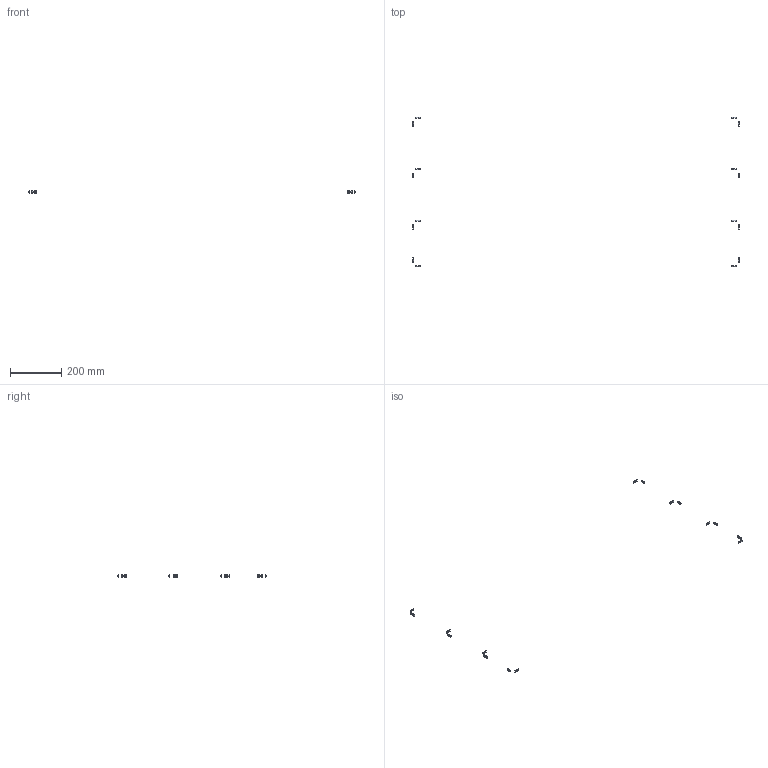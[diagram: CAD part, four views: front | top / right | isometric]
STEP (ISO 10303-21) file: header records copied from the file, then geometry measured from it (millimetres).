
FILE_DESCRIPTION(/* description */ (''),/* implementation_level */ '2;1');
FILE_NAME(/* name */ '12.frame-table#12.2#HNTPZ5-5',/* time_stamp */ '2014-12-01T20:19:41+01:00',/* author */ (''),/* organization */ (''),/* preprocessor_version */ 'ST-DEVELOPER v14',/* originating_system */ '',/* authorisation */ '');
FILE_SCHEMA (('AUTOMOTIVE_DESIGN'));
Length unit declared in the file: millimetre
Products named in the file (2): Document; nut tslot, post, M5
Assembly tree (8 placements, depth 2):
  Document
    nut tslot, post, M5  x8
Bounding box: 1270.4 x 580.4 x 8.3 mm (x, y, z)
Volume: 5040.2 mm3; surface area: 6712.1 mm2
Topology: 16 solids, 16 shells, 208 faces, 576 edges, 384 vertices
Faces by surface type: plane 176, bspline 32
Entity records: 8673 total; most frequent: CARTESIAN_POINT 4115, B_SPLINE_CURVE_WITH_KNOTS 900, ORIENTED_EDGE 648, PCURVE 648, DEFINITIONAL_REPRESENTATION 648, SURFACE_CURVE 324, EDGE_CURVE 324, VERTEX_POINT 216
